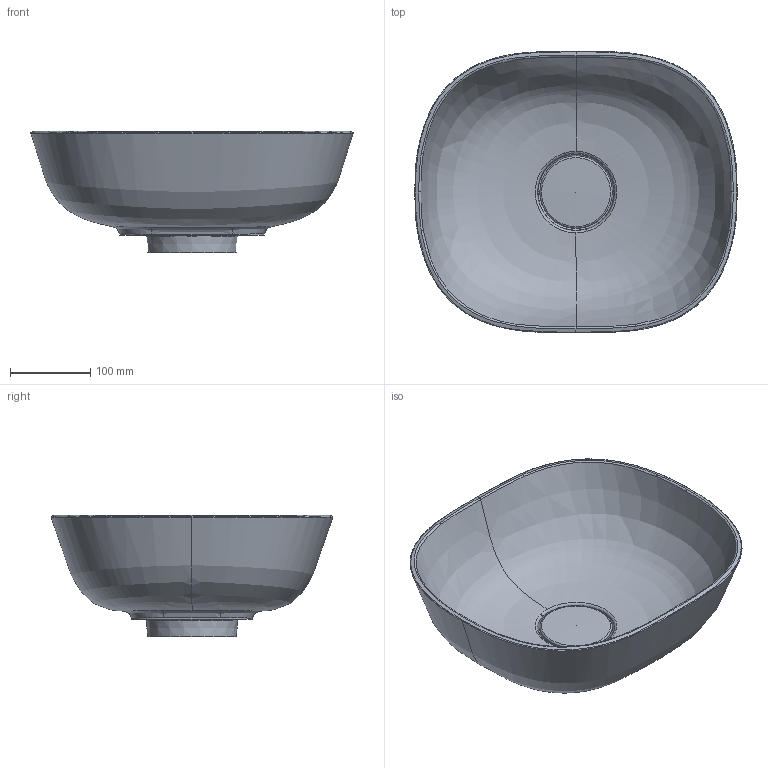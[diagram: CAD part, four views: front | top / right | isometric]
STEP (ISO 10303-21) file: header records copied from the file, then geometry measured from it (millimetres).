
FILE_DESCRIPTION(/* description */ (''),/* implementation_level */ '2;1');
FILE_NAME(/* name */ 'c:\worker\convert-fusion-r08\tmp\job-1\13\output\files\ab82c5c4-ce40-4547-8018-0ee6426cc96d\67f90e73-a2b7-46ae-b476-f165b5c405a2.stp',/* time_stamp */ '2019-11-22T15:04:13+00:00',/* author */ (''),/* organization */ (''),/* preprocessor_version */ 'ST-DEVELOPER v18',/* originating_system */ 'Autodesk Translation Framework v8.12.0.6',/* authorisation */ '');
FILE_SCHEMA (('AUTOMOTIVE_DESIGN { 1 0 10303 214 3 1 1 }'));
Length unit declared in the file: millimetre
Products named in the file (1): SILK400BP
Bounding box: 400.35 x 350.03 x 151.09 mm (x, y, z)
Volume: 2576122.9 mm3; surface area: 413476.2 mm2
Topology: 2 solids, 2 shells, 104 faces, 273 edges, 168 vertices
Faces by surface type: bspline 69, cone 15, plane 13, torus 5, sphere 1, cylinder 1
Full cylindrical faces by diameter (mm): 44 x1
Entity records: 19058 total; most frequent: CARTESIAN_POINT 16933, ORIENTED_EDGE 536, DIRECTION 309, EDGE_CURVE 268, VERTEX_POINT 168, AXIS2_PLACEMENT_3D 133, B_SPLINE_CURVE_WITH_KNOTS 128, EDGE_LOOP 106
